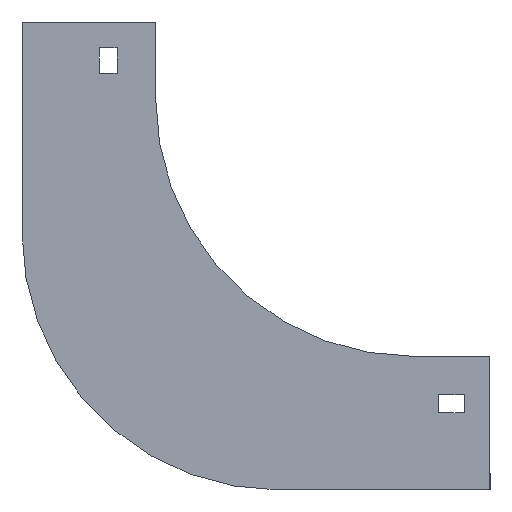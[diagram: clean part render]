
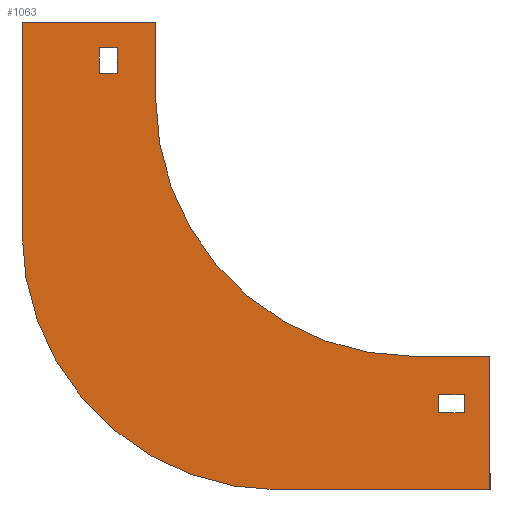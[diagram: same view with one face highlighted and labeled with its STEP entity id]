
A CAD part, left-side view. The second image highlights one B-rep face of the part: STEP entity #1063.
In plain terms, the highlighted planar face has unit normal (-1, 0, 0).
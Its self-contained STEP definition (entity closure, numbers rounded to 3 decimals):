
#5 = ORIENTED_EDGE ( 'NONE', *, *, #100, .F. ) ;
#14 = FACE_BOUND ( 'NONE', #1278, .T. ) ;
#30 = EDGE_CURVE ( 'NONE', #1269, #701, #421, .T. ) ;
#44 = DIRECTION ( 'NONE',  ( 0., 0., 1. ) ) ;
#50 = DIRECTION ( 'NONE',  ( 0., 1., 0. ) ) ;
#74 = ORIENTED_EDGE ( 'NONE', *, *, #1332, .F. ) ;
#94 = EDGE_CURVE ( 'NONE', #809, #427, #1112, .T. ) ;
#98 = CARTESIAN_POINT ( 'NONE',  ( -302., 52., 0. ) ) ;
#99 = LINE ( 'NONE', #326, #1132 ) ;
#100 = EDGE_CURVE ( 'NONE', #1248, #1226, #1192, .T. ) ;
#111 = EDGE_CURVE ( 'NONE', #1113, #695, #1292, .T. ) ;
#124 = VERTEX_POINT ( 'NONE', #881 ) ;
#126 = CARTESIAN_POINT ( 'NONE',  ( -302., 52., -82. ) ) ;
#135 = DIRECTION ( 'NONE',  ( -1., 0., 0. ) ) ;
#213 = ORIENTED_EDGE ( 'NONE', *, *, #967, .T. ) ;
#245 = DIRECTION ( 'NONE',  ( 0., 0., 1. ) ) ;
#256 = EDGE_CURVE ( 'NONE', #471, #1269, #843, .T. ) ;
#257 = LINE ( 'NONE', #459, #768 ) ;
#261 = CARTESIAN_POINT ( 'NONE',  ( -302., -100., -30. ) ) ;
#268 = VERTEX_POINT ( 'NONE', #851 ) ;
#274 = VECTOR ( 'NONE', #50, 1000. ) ;
#297 = EDGE_CURVE ( 'NONE', #620, #1048, #340, .T. ) ;
#307 = ORIENTED_EDGE ( 'NONE', *, *, #30, .F. ) ;
#326 = CARTESIAN_POINT ( 'NONE',  ( -302., -110., -152. ) ) ;
#340 = LINE ( 'NONE', #766, #834 ) ;
#341 = FACE_OUTER_BOUND ( 'NONE', #1046, .T. ) ;
#385 = ORIENTED_EDGE ( 'NONE', *, *, #256, .F. ) ;
#421 = LINE ( 'NONE', #1163, #1083 ) ;
#423 = EDGE_CURVE ( 'NONE', #676, #809, #1123, .T. ) ;
#427 = VERTEX_POINT ( 'NONE', #665 ) ;
#444 = DIRECTION ( 'NONE',  ( 0., -1., 0. ) ) ;
#446 = EDGE_CURVE ( 'NONE', #1226, #1246, #257, .T. ) ;
#452 = DIRECTION ( 'NONE',  ( 0., 0., -1. ) ) ;
#459 = CARTESIAN_POINT ( 'NONE',  ( -302., -130., -130. ) ) ;
#471 = VERTEX_POINT ( 'NONE', #904 ) ;
#520 = DIRECTION ( 'NONE',  ( 0., 0., -1. ) ) ;
#541 = CARTESIAN_POINT ( 'NONE',  ( -302., 52., 0. ) ) ;
#546 = ORIENTED_EDGE ( 'NONE', *, *, #950, .F. ) ;
#551 = DIRECTION ( 'NONE',  ( 0., 0., 1. ) ) ;
#554 = CARTESIAN_POINT ( 'NONE',  ( -302., 15., -10. ) ) ;
#564 = CARTESIAN_POINT ( 'NONE',  ( -302., -110., -145. ) ) ;
#570 = CARTESIAN_POINT ( 'NONE',  ( -302., 22., -20. ) ) ;
#577 = VECTOR ( 'NONE', #444, 1000. ) ;
#581 = VECTOR ( 'NONE', #1104, 1000. ) ;
#601 = VECTOR ( 'NONE', #1185, 1000. ) ;
#620 = VERTEX_POINT ( 'NONE', #554 ) ;
#628 = CARTESIAN_POINT ( 'NONE',  ( -302., 22., -10. ) ) ;
#656 = CARTESIAN_POINT ( 'NONE',  ( -302., -100., -30. ) ) ;
#665 = CARTESIAN_POINT ( 'NONE',  ( -302., 0., 0. ) ) ;
#667 = LINE ( 'NONE', #1224, #581 ) ;
#675 = CARTESIAN_POINT ( 'NONE',  ( -302., 22., -10. ) ) ;
#676 = VERTEX_POINT ( 'NONE', #126 ) ;
#678 = DIRECTION ( 'NONE',  ( 0., 0., -1. ) ) ;
#695 = VERTEX_POINT ( 'NONE', #675 ) ;
#699 = CARTESIAN_POINT ( 'NONE',  ( -302., -130., -182. ) ) ;
#701 = VERTEX_POINT ( 'NONE', #564 ) ;
#702 = CARTESIAN_POINT ( 'NONE',  ( -302., -100., -130. ) ) ;
#704 = ORIENTED_EDGE ( 'NONE', *, *, #1376, .F. ) ;
#731 = LINE ( 'NONE', #628, #1382 ) ;
#758 = FACE_BOUND ( 'NONE', #825, .T. ) ;
#763 = ORIENTED_EDGE ( 'NONE', *, *, #297, .T. ) ;
#766 = CARTESIAN_POINT ( 'NONE',  ( -302., 15., -10. ) ) ;
#768 = VECTOR ( 'NONE', #678, 1000. ) ;
#771 = ORIENTED_EDGE ( 'NONE', *, *, #446, .F. ) ;
#773 = CARTESIAN_POINT ( 'NONE',  ( -302., -130., -130. ) ) ;
#799 = CARTESIAN_POINT ( 'NONE',  ( -302., -130., -182. ) ) ;
#809 = VERTEX_POINT ( 'NONE', #98 ) ;
#810 = CIRCLE ( 'NONE', #1198, 100. ) ;
#819 = CARTESIAN_POINT ( 'NONE',  ( -302., -120., -152. ) ) ;
#825 = EDGE_LOOP ( 'NONE', ( #307, #385, #546, #1007 ) ) ;
#834 = VECTOR ( 'NONE', #452, 1000. ) ;
#843 = LINE ( 'NONE', #1283, #1386 ) ;
#851 = CARTESIAN_POINT ( 'NONE',  ( -302., -110., -152. ) ) ;
#881 = CARTESIAN_POINT ( 'NONE',  ( -302., 0., -30. ) ) ;
#889 = DIRECTION ( 'NONE',  ( 0., 0., 1. ) ) ;
#904 = CARTESIAN_POINT ( 'NONE',  ( -302., -120., -152. ) ) ;
#938 = ORIENTED_EDGE ( 'NONE', *, *, #423, .F. ) ;
#940 = DIRECTION ( 'NONE',  ( 1., 0., 0. ) ) ;
#948 = EDGE_CURVE ( 'NONE', #427, #124, #667, .T. ) ;
#949 = CARTESIAN_POINT ( 'NONE',  ( -302., -48., -182. ) ) ;
#950 = EDGE_CURVE ( 'NONE', #268, #471, #1141, .T. ) ;
#960 = ORIENTED_EDGE ( 'NONE', *, *, #1124, .T. ) ;
#967 = EDGE_CURVE ( 'NONE', #695, #620, #731, .T. ) ;
#984 = VERTEX_POINT ( 'NONE', #949 ) ;
#987 = EDGE_CURVE ( 'NONE', #984, #676, #1220, .T. ) ;
#1006 = CARTESIAN_POINT ( 'NONE',  ( -302., 52., -82. ) ) ;
#1007 = ORIENTED_EDGE ( 'NONE', *, *, #1181, .F. ) ;
#1008 = AXIS2_PLACEMENT_3D ( 'NONE', #656, #135, #551 ) ;
#1013 = LINE ( 'NONE', #699, #274 ) ;
#1046 = EDGE_LOOP ( 'NONE', ( #1058, #938, #1068, #74, #771, #5, #704, #1159 ) ) ;
#1048 = VERTEX_POINT ( 'NONE', #1191 ) ;
#1058 = ORIENTED_EDGE ( 'NONE', *, *, #94, .F. ) ;
#1063 = ADVANCED_FACE ( 'NONE', ( #14, #341, #758 ), #1199, .T. ) ;
#1068 = ORIENTED_EDGE ( 'NONE', *, *, #987, .F. ) ;
#1074 = LINE ( 'NONE', #1165, #1111 ) ;
#1082 = CARTESIAN_POINT ( 'NONE',  ( -302., 22., -10. ) ) ;
#1083 = VECTOR ( 'NONE', #1280, 1000. ) ;
#1104 = DIRECTION ( 'NONE',  ( 0., 0., -1. ) ) ;
#1111 = VECTOR ( 'NONE', #1186, 1000. ) ;
#1112 = LINE ( 'NONE', #541, #601 ) ;
#1113 = VERTEX_POINT ( 'NONE', #570 ) ;
#1123 = LINE ( 'NONE', #1006, #1274 ) ;
#1124 = EDGE_CURVE ( 'NONE', #1048, #1113, #1074, .T. ) ;
#1132 = VECTOR ( 'NONE', #520, 1000. ) ;
#1141 = LINE ( 'NONE', #819, #1335 ) ;
#1159 = ORIENTED_EDGE ( 'NONE', *, *, #948, .F. ) ;
#1163 = CARTESIAN_POINT ( 'NONE',  ( -302., -120., -145. ) ) ;
#1165 = CARTESIAN_POINT ( 'NONE',  ( -302., 22., -20. ) ) ;
#1166 = ORIENTED_EDGE ( 'NONE', *, *, #111, .T. ) ;
#1178 = DIRECTION ( 'NONE',  ( 0., 0., 1. ) ) ;
#1181 = EDGE_CURVE ( 'NONE', #701, #268, #99, .T. ) ;
#1185 = DIRECTION ( 'NONE',  ( 0., -1., 0. ) ) ;
#1186 = DIRECTION ( 'NONE',  ( 0., 1., 0. ) ) ;
#1191 = CARTESIAN_POINT ( 'NONE',  ( -302., 15., -20. ) ) ;
#1192 = LINE ( 'NONE', #1205, #577 ) ;
#1198 = AXIS2_PLACEMENT_3D ( 'NONE', #261, #1334, #889 ) ;
#1199 = PLANE ( 'NONE',  #1008 ) ;
#1205 = CARTESIAN_POINT ( 'NONE',  ( -302., -100., -130. ) ) ;
#1220 = CIRCLE ( 'NONE', #1357, 100. ) ;
#1224 = CARTESIAN_POINT ( 'NONE',  ( -302., 0., 0. ) ) ;
#1226 = VERTEX_POINT ( 'NONE', #773 ) ;
#1246 = VERTEX_POINT ( 'NONE', #799 ) ;
#1248 = VERTEX_POINT ( 'NONE', #702 ) ;
#1255 = DIRECTION ( 'NONE',  ( 0., -1., 0. ) ) ;
#1259 = CARTESIAN_POINT ( 'NONE',  ( -302., -120., -145. ) ) ;
#1263 = VECTOR ( 'NONE', #245, 1000. ) ;
#1269 = VERTEX_POINT ( 'NONE', #1259 ) ;
#1274 = VECTOR ( 'NONE', #44, 1000. ) ;
#1278 = EDGE_LOOP ( 'NONE', ( #213, #763, #960, #1166 ) ) ;
#1280 = DIRECTION ( 'NONE',  ( 0., 1., 0. ) ) ;
#1283 = CARTESIAN_POINT ( 'NONE',  ( -302., -120., -152. ) ) ;
#1292 = LINE ( 'NONE', #1082, #1263 ) ;
#1332 = EDGE_CURVE ( 'NONE', #1246, #984, #1013, .T. ) ;
#1334 = DIRECTION ( 'NONE',  ( -1., 0., 0. ) ) ;
#1335 = VECTOR ( 'NONE', #1255, 1000. ) ;
#1357 = AXIS2_PLACEMENT_3D ( 'NONE', #1397, #940, #1390 ) ;
#1376 = EDGE_CURVE ( 'NONE', #124, #1248, #810, .T. ) ;
#1379 = DIRECTION ( 'NONE',  ( 0., -1., 0. ) ) ;
#1382 = VECTOR ( 'NONE', #1379, 1000. ) ;
#1386 = VECTOR ( 'NONE', #1178, 1000. ) ;
#1390 = DIRECTION ( 'NONE',  ( 0., 0., -1. ) ) ;
#1397 = CARTESIAN_POINT ( 'NONE',  ( -302., -48., -82. ) ) ;
